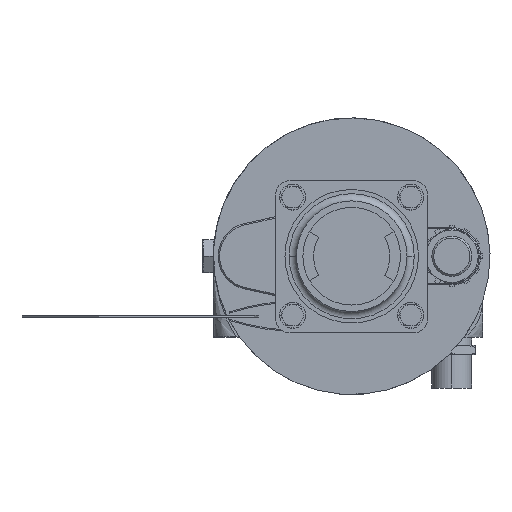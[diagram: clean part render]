
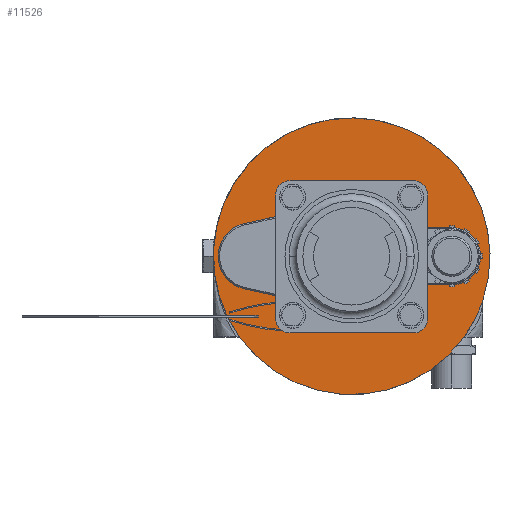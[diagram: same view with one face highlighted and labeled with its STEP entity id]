
A CAD part, front view. The second image highlights one B-rep face of the part: STEP entity #11526.
In plain terms, the highlighted planar face has unit normal (0, -1, 0).
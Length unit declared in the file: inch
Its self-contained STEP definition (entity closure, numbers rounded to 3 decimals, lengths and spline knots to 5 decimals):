
#9834=CARTESIAN_POINT('',(0.00015,30.894,0.00015));
#9835=DIRECTION('',(0.,1.,0.));
#9836=DIRECTION('',(0.81,0.,-0.586));
#9837=AXIS2_PLACEMENT_3D('',#9834,#9835,#9836);
#9839=CARTESIAN_POINT('',(0.00015,30.894,0.00015));
#9840=DIRECTION('',(0.,-1.,0.));
#9841=DIRECTION('',(0.81,0.,-0.586));
#9842=AXIS2_PLACEMENT_3D('',#9839,#9840,#9841);
#10036=CARTESIAN_POINT('',(2.93698,30.894,-2.12485));
#10037=CARTESIAN_POINT('',(3.43715,30.894,-1.15209));
#10038=VERTEX_POINT('',#10036);
#10039=VERTEX_POINT('',#10037);
#11517=CARTESIAN_POINT('',(0.00015,30.894,-2.12485));
#11518=DIRECTION('',(0.,1.,0.));
#11519=DIRECTION('',(-1.,0.,0.));
#11520=AXIS2_PLACEMENT_3D('',#11517,#11518,#11519);
#11521=PLANE('',#11520);
#11522=ORIENTED_EDGE('',*,*,#10053,.T.);
#11523=ORIENTED_EDGE('',*,*,#10443,.F.);
#11524=EDGE_LOOP('',(#11522,#11523));
#11525=FACE_OUTER_BOUND('',#11524,.F.);
#11526=ADVANCED_FACE('',(#11525),#11521,.F.);
#9838=CIRCLE('',#9837,3.625);
#9843=CIRCLE('',#9842,3.625);
#10053=EDGE_CURVE('',#10038,#10039,#9838,.T.);
#10443=EDGE_CURVE('',#10038,#10039,#9843,.T.);
